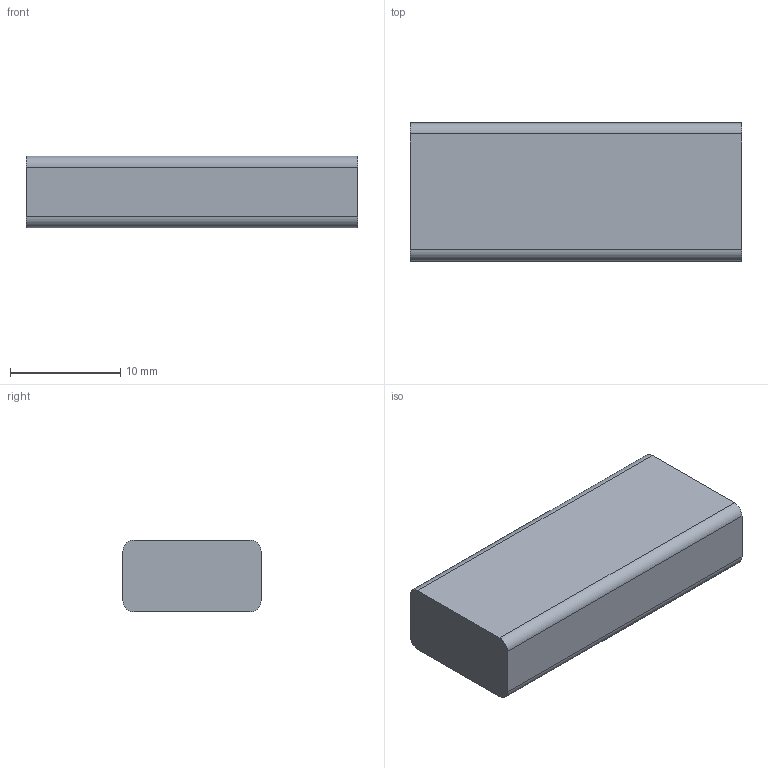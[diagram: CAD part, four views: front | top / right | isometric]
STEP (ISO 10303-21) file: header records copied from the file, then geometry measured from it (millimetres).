
FILE_DESCRIPTION(('Open CASCADE Model'),'2;1');
FILE_NAME('Open CASCADE Shape Model','2026-09-06T11:29:01',('Author'),( 'Open CASCADE'),'Open CASCADE STEP processor 7.7','Open CASCADE 7.7' ,'Unknown');
FILE_SCHEMA(('AUTOMOTIVE_DESIGN { 1 0 10303 214 1 1 1 1 }'));
Length unit declared in the file: millimetre
Products named in the file (1): Open CASCADE STEP translator 7.7 8
Bounding box: 30 x 12.5 x 6.5 mm (x, y, z)
Volume: 2411.7 mm3; surface area: 1249.3 mm2
Topology: 1 solids, 1 shells, 10 faces, 24 edges, 16 vertices
Faces by surface type: plane 6, cylinder 4
Entity records: 630 total; most frequent: CARTESIAN_POINT 123, DIRECTION 98, LINE 56, VECTOR 56, ORIENTED_EDGE 48, PCURVE 48, DEFINITIONAL_REPRESENTATION 48, EDGE_CURVE 24
